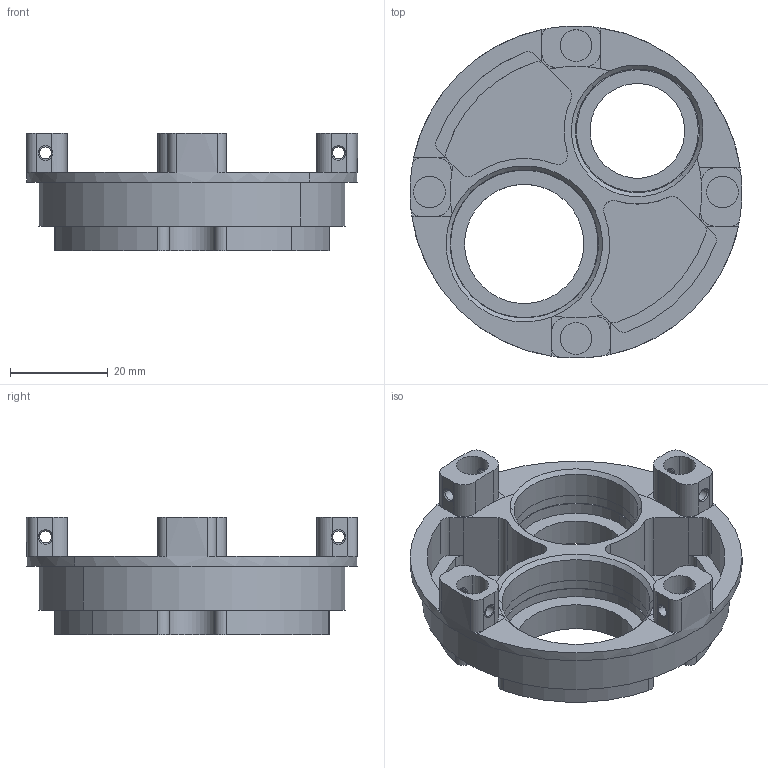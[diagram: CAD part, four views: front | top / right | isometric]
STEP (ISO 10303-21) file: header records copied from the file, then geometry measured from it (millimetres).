
FILE_DESCRIPTION(/* description */ ('(C) Elphel, Inc. 2011. Licensed under CERN OHL v.1.1 or later, see http://ohwr.org/cernohl'),/* implementation_level */ '2;1');
FILE_NAME(/* name */ '0353-19-81',/* time_stamp */ '2011-10-13T16:04:36-06:00',/* author */ (''),/* organization */ ('Elphel, Inc'),/* preprocessor_version */ 'ST-DEVELOPER v12',/* originating_system */ 'VariCAD 2010-3.03; kernel version (20100102)',/* authorisation */ '');
FILE_SCHEMA (('AUTOMOTIVE_DESIGN'));
Length unit declared in the file: millimetre
Products named in the file (1): Part
Bounding box: 68 x 68 x 24 mm (x, y, z)
Volume: 19428.5 mm3; surface area: 19628 mm2
Topology: 15 solids, 15 shells, 296 faces, 728 edges, 462 vertices
Faces by surface type: cylinder 188, plane 88, cone 20
Entity records: 11876 total; most frequent: CARTESIAN_POINT 2376, DIRECTION 1634, ORIENTED_EDGE 1456, EDGE_CURVE 728, AXIS2_PLACEMENT_3D 676, VERTEX_POINT 462, CIRCLE 364, EDGE_LOOP 344
